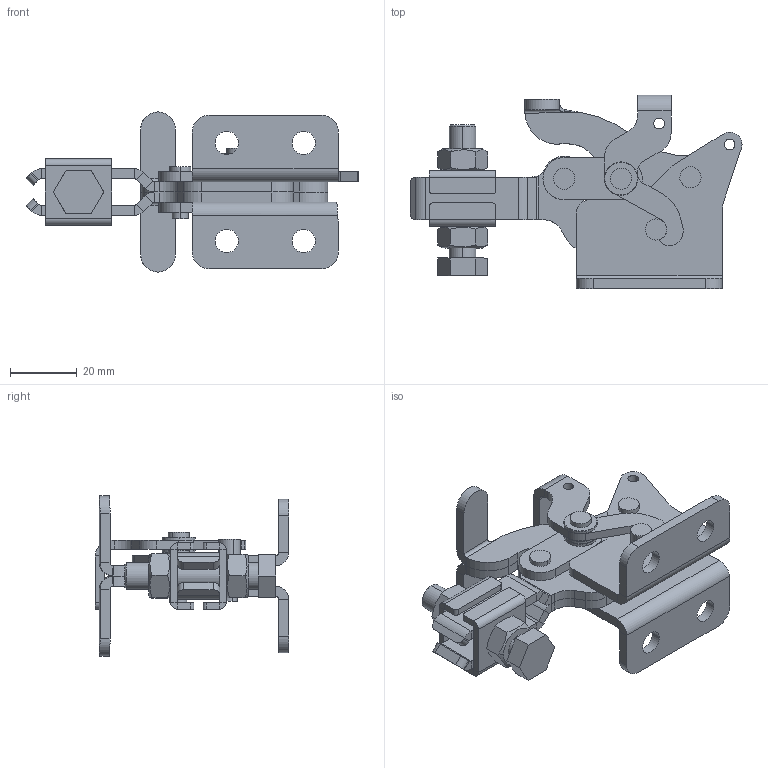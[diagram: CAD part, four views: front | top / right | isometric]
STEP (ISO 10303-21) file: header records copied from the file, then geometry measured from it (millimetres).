
FILE_DESCRIPTION (( 'STEP AP203' ), '1' );
FILE_NAME ('KF-103 D TR.STEP', '2013-12-13T18:14:12', ( 'Ricardo' ), ( '' ), 'SwSTEP 2.0', 'SolidWorks 2012', '' );
FILE_SCHEMA (( 'CONFIG_CONTROL_DESIGN' ));
Length unit declared in the file: millimetre
Products named in the file (16): KF-103 D TR; 18.10033; 17.50011; 3670000099; 14.10001; 11.50002; 12.50008; 06.50056; 06.50001; 08.10027; 01.10036_Esquerda; 01.10036_Direita; 03.13015_Esquerda; 03.13015_Direita; 02.12029_Esquerda; 02.12129_Direita
Assembly tree (21 placements, depth 2):
  KF-103 D TR
    02.12129_Direita
    02.12029_Esquerda
    03.13015_Direita
    03.13015_Esquerda
    01.10036_Direita
    01.10036_Esquerda
    08.10027  x2
    06.50001  x2
    06.50056
    12.50008
    11.50002  x2
    14.10001  x2
    3670000099
    17.50011  x3
    18.10033
Bounding box: 99.58 x 57.98 x 48 mm (x, y, z)
Volume: 35109.9 mm3; surface area: 30965.8 mm2
Topology: 21 solids, 21 shells, 458 faces, 1075 edges, 662 vertices
Faces by surface type: plane 203, cylinder 200, cone 46, bspline 9
Entity records: 12768 total; most frequent: CARTESIAN_POINT 2207, DIRECTION 1927, ORIENTED_EDGE 1730, EDGE_CURVE 865, AXIS2_PLACEMENT_3D 730, VERTEX_POINT 537, VECTOR 467, LINE 467
